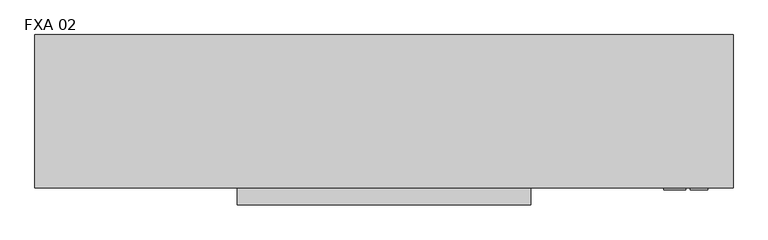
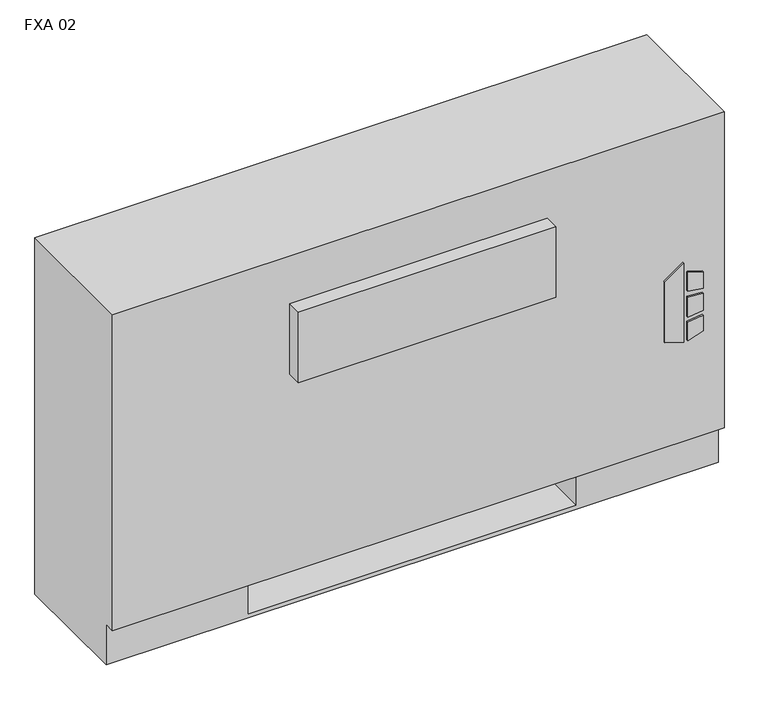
"""IFC4 building model written with IfcOpenShell, lengths in millimetres: proxy geometry, Vertical_Fan_Coil_Unit_-_FXA_-_IEC_-_4-Pipe_FS-FR_LH_2022 : FXA 02."""

from ifc_helpers import new_model, si_unit, point, frame, frame_2d, origin, place, context, project, spatial, polyline, circle_curve, trimmed, segment, composite_curve, outline, extrude, source, transform, mapped, element, save
from ifc_brep_helpers import plane_surface, revolved_surface, advanced_brep


def fxa_02_18b34fc7(model_context):
    return source(origin(), model_context, "Body", "SolidModel", [
        extrude(outline(polyline([(263.9480703, 569.9868862), (254.0, 602.1602728), (396.1709244, 602.1602728), (373.1489183, 569.9868862), (263.9480703, 569.9868862)])), frame((0.0, 12.7, 0.0), z_axis=(0.0, 1.0, 0.0), x_axis=(0.0, 0.0, 1.0)), (0.0, 0.0, 1.0), 3.175),
        extrude(outline(polyline([(342.9473557, 608.9186058), (339.7449632, 635.0), (368.9738042, 635.0), (377.0382193, 608.9186058), (342.9473557, 608.9186058)])), frame((0.0, 12.7, 0.0), z_axis=(0.0, 1.0, 0.0), x_axis=(0.0, 0.0, 1.0)), (0.0, 0.0, 1.0), 3.175),
        extrude(outline(polyline([(291.0838288, 635.0), (287.4183279, 608.9186058), (254.0, 608.9186058), (262.6342372, 635.0), (291.0838288, 635.0)])), frame((0.0, 12.7, 0.0), z_axis=(0.0, 1.0, 0.0), x_axis=(0.0, 0.0, 1.0)), (0.0, 0.0, 1.0), 3.175),
        extrude(outline(polyline([(330.3989903, 635.0), (332.6808166, 608.9186058), (296.7432681, 608.9186058), (299.4845331, 635.0), (330.3989903, 635.0)])), frame((0.0, 12.7, 0.0), z_axis=(0.0, 1.0, 0.0), x_axis=(0.0, 0.0, 1.0)), (0.0, 0.0, 1.0), 3.175),
        extrude(outline(polyline([(552.45, 223.266), (552.45, 81.534), (431.8, 81.534), (431.8, 223.266), (552.45, 223.266)])), frame((0.0, 0.0, 327.025), z_axis=(0.0, 0.0, 1.0), x_axis=(1.0, 0.0, 0.0)), (0.0, 0.0, 1.0), 260.35),
        extrude(outline(composite_curve([segment(trimmed(circle_curve(frame_2d((-190.5, 130.175)), 9.525), [point((-200.025, 130.175))], [point((-180.975, 130.175))], False, "CARTESIAN"), True, "CONTINUOUS"), segment(trimmed(circle_curve(frame_2d((-190.5, 130.175)), 9.525), [point((-180.975, 130.175))], [point((-200.025, 130.175))], False, "CARTESIAN"), True, "CONTINUOUS")], self_intersect=False)), frame((0.0, 0.0, 101.6), z_axis=(0.0, 0.0, 1.0), x_axis=(1.0, 0.0, 0.0)), (0.0, 0.0, 1.0), 25.4),
        extrude(outline(polyline([(-292.1, 63.5), (-292.1, 196.85), (-127.0, 196.85), (-127.0, 63.5), (-292.1, 63.5)])), frame((0.0, 0.0, 127.0), z_axis=(0.0, 0.0, 1.0), x_axis=(1.0, 0.0, 0.0)), (0.0, 0.0, 1.0), 50.8),
        extrude(outline(polyline([(371.475, -9.525), (-66.675, -9.525), (-66.675, 15.875), (371.475, 15.875), (371.475, -9.525)])), frame((0.0, 0.0, 428.625), z_axis=(0.0, 0.0, 1.0), x_axis=(1.0, 0.0, 0.0)), (0.0, 0.0, 1.0), 127.0),
        extrude(outline(composite_curve([segment(trimmed(circle_curve(frame_2d((117.475, 472.44)), 7.9375), [point((117.475, 480.3775))], [point((117.475, 464.5025))], False, "CARTESIAN"), True, "CONTINUOUS"), segment(trimmed(circle_curve(frame_2d((117.475, 472.44)), 7.9375), [point((117.475, 464.5025))], [point((117.475, 480.3775))], False, "CARTESIAN"), True, "CONTINUOUS")], self_intersect=False)), frame((-177.8, 0.0, 0.0), z_axis=(1.0, 0.0, 0.0), x_axis=(0.0, 1.0, 0.0)), (0.0, 0.0, 1.0), 50.8),
        extrude(outline(composite_curve([segment(trimmed(circle_curve(frame_2d((164.0586, 445.897)), 7.9375), [point((164.0586, 453.8345))], [point((164.0586, 437.9595))], False, "CARTESIAN"), True, "CONTINUOUS"), segment(trimmed(circle_curve(frame_2d((164.0586, 445.897)), 7.9375), [point((164.0586, 437.9595))], [point((164.0586, 453.8345))], False, "CARTESIAN"), True, "CONTINUOUS")], self_intersect=False)), frame((-177.8, 0.0, 0.0), z_axis=(1.0, 0.0, 0.0), x_axis=(0.0, 1.0, 0.0)), (0.0, 0.0, 1.0), 50.8),
        extrude(outline(composite_curve([segment(trimmed(circle_curve(frame_2d((130.175, 554.99)), 7.9502), [point((130.175, 562.9402))], [point((130.175, 547.0398))], False, "CARTESIAN"), True, "CONTINUOUS"), segment(trimmed(circle_curve(frame_2d((130.175, 554.99)), 7.9502), [point((130.175, 547.0398))], [point((130.175, 562.9402))], False, "CARTESIAN"), True, "CONTINUOUS")], self_intersect=False)), frame((-177.8, 0.0, 0.0), z_axis=(1.0, 0.0, 0.0), x_axis=(0.0, 1.0, 0.0)), (0.0, 0.0, 1.0), 50.8),
        extrude(outline(composite_curve([segment(trimmed(circle_curve(frame_2d((53.975, 416.56)), 7.9502), [point((53.975, 424.5102))], [point((53.975, 408.6098))], False, "CARTESIAN"), True, "CONTINUOUS"), segment(trimmed(circle_curve(frame_2d((53.975, 416.56)), 7.9502), [point((53.975, 408.6098))], [point((53.975, 424.5102))], False, "CARTESIAN"), True, "CONTINUOUS")], self_intersect=False)), frame((-177.8, 0.0, 0.0), z_axis=(1.0, 0.0, 0.0), x_axis=(0.0, 1.0, 0.0)), (0.0, 0.0, 1.0), 50.8),
        advanced_brep(
        [(673.1, 244.475, 641.35), (-368.3, 244.475, 641.35), (-368.3, 15.875, 641.35), (673.1, 15.875, 641.35), (-368.3, 244.475, 0.0), (673.1, 244.475, 0.0), (673.1, 34.925, 0.0), (-368.3, 34.925, 0.0), (431.8, 244.475, 73.025), (660.4, 244.475, 73.025), (660.4, 244.475, 628.65), (431.8, 244.475, 628.65), (431.8, 244.475, 414.8650565), (460.375, 244.475, 414.8650565), (460.375, 244.475, 385.2349435), (431.8, 244.475, 385.2349435), (431.8, 244.475, 287.3375), (460.375, 244.475, 287.3375), (460.375, 244.475, 258.7625), (431.8, 244.475, 258.7625), (431.8, 244.475, 141.2875), (460.375, 244.475, 141.2875), (460.375, 244.475, 112.7125), (431.8, 244.475, 112.7125), (-127.0, 244.475, 628.65), (-355.6, 244.475, 628.65), (-355.6, 244.475, 73.025), (-127.0, 244.475, 73.025), (-127.0, 244.475, 112.7125), (-155.575, 244.475, 112.7125), (-155.575, 244.475, 141.2875), (-127.0, 244.475, 141.2875), (-127.0, 244.475, 258.7625), (-155.575, 244.475, 258.7625), (-155.575, 244.475, 287.3375), (-127.0, 244.475, 287.3375), (-127.0, 244.475, 385.2349435), (-155.575, 244.475, 385.2349435), (-155.575, 244.475, 414.8650565), (-127.0, 244.475, 414.8650565), (450.0626, 244.475, 127.0), (438.9374, 244.475, 127.0), (450.0626, 244.475, 400.05), (438.9374, 244.475, 400.05), (450.0626, 244.475, 273.05), (438.9374, 244.475, 273.05), (-134.1374, 244.475, 127.0), (-145.2626, 244.475, 127.0), (-134.1374, 244.475, 273.05), (-145.2626, 244.475, 273.05), (-134.1374, 244.475, 400.05), (-145.2626, 244.475, 400.05), (-368.3, 34.925, 73.025), (-368.3, 15.875, 73.025), (673.1, 15.875, 73.025), (673.1, 34.925, 73.025), (-127.0, 34.925, 73.025), (-127.0, 219.075, 73.025), (431.8, 219.075, 73.025), (431.8, 34.925, 73.025), (431.8, 34.925, 6.35), (-127.0, 34.925, 6.35), (431.8, 41.275, 628.65), (660.4, 41.275, 628.65), (660.4, 41.275, 73.025), (431.8, 41.275, 73.025), (-127.0, 41.275, 628.65), (-127.0, 41.275, 73.025), (-355.6, 41.275, 73.025), (-355.6, 41.275, 628.65), (431.8, 219.075, 73.025), (431.8, 238.125, 112.7125), (431.8, 238.125, 141.2875), (431.8, 238.125, 258.7625), (431.8, 238.125, 287.3375), (431.8, 238.125, 385.2349435), (431.8, 238.125, 414.8650565), (-127.0, 219.075, 73.025), (-127.0, 238.125, 414.8650565), (-127.0, 238.125, 385.2349435), (-127.0, 238.125, 287.3375), (-127.0, 238.125, 258.7625), (-127.0, 238.125, 141.2875), (-127.0, 238.125, 112.7125), (-127.0, 219.075, 6.35), (431.8, 219.075, 6.35), (460.375, 238.125, 112.7125), (460.375, 238.125, 141.2875), (438.9374, 238.125, 127.0), (450.0626, 238.125, 127.0), (460.375, 238.125, 258.7625), (460.375, 238.125, 287.3375), (438.9374, 238.125, 273.05), (450.0626, 238.125, 273.05), (460.375, 238.125, 385.2349435), (460.375, 238.125, 414.8650565), (438.9374, 238.125, 400.05), (450.0626, 238.125, 400.05), (-155.575, 238.125, 141.2875), (-155.575, 238.125, 112.7125), (-145.2626, 238.125, 127.0), (-134.1374, 238.125, 127.0), (-155.575, 238.125, 287.3375), (-155.575, 238.125, 258.7625), (-145.2626, 238.125, 273.05), (-134.1374, 238.125, 273.05), (-155.575, 238.125, 414.8650565), (-155.575, 238.125, 385.2349435), (-145.2626, 238.125, 400.05), (-134.1374, 238.125, 400.05)],
        [
            (0, 1),
            (1, 2),
            (2, 3),
            (3, 0),
            (4, 5),
            (5, 6),
            (6, 7),
            (7, 4),
            (0, 5),
            (4, 1),
            (8, 9),
            (9, 10),
            (10, 11),
            (11, 12),
            (12, 13),
            (13, 14),
            (14, 15),
            (15, 16),
            (16, 17),
            (17, 18),
            (18, 19),
            (19, 20),
            (20, 21),
            (21, 22),
            (22, 23),
            (23, 8),
            (24, 25),
            (25, 26),
            (26, 27),
            (27, 28),
            (28, 29),
            (29, 30),
            (30, 31),
            (31, 32),
            (32, 33),
            (33, 34),
            (34, 35),
            (35, 36),
            (36, 37),
            (37, 38),
            (38, 39),
            (39, 24),
            (40, 41, circle_curve(frame((444.5, 244.475, 127.0), z_axis=(0.0, -1.0, 0.0), x_axis=(-1.0, 0.0, 0.0)), 5.5626)),
            (41, 40, circle_curve(frame((444.5, 244.475, 127.0), z_axis=(0.0, -1.0, 0.0), x_axis=(-1.0, 0.0, 0.0)), 5.5626)),
            (42, 43, circle_curve(frame((444.5, 244.475, 400.05), z_axis=(0.0, -1.0, 0.0), x_axis=(-1.0, 0.0, 0.0)), 5.5626)),
            (43, 42, circle_curve(frame((444.5, 244.475, 400.05), z_axis=(0.0, -1.0, 0.0), x_axis=(-1.0, 0.0, 0.0)), 5.5626)),
            (44, 45, circle_curve(frame((444.5, 244.475, 273.05), z_axis=(0.0, -1.0, 0.0), x_axis=(-1.0, 0.0, 0.0)), 5.5626)),
            (45, 44, circle_curve(frame((444.5, 244.475, 273.05), z_axis=(0.0, -1.0, 0.0), x_axis=(-1.0, 0.0, 0.0)), 5.5626)),
            (46, 47, circle_curve(frame((-139.7, 244.475, 127.0), z_axis=(0.0, -1.0, 0.0), x_axis=(-1.0, 0.0, 0.0)), 5.5626)),
            (47, 46, circle_curve(frame((-139.7, 244.475, 127.0), z_axis=(0.0, -1.0, 0.0), x_axis=(-1.0, 0.0, 0.0)), 5.5626)),
            (48, 49, circle_curve(frame((-139.7, 244.475, 273.05), z_axis=(0.0, -1.0, 0.0), x_axis=(-1.0, 0.0, 0.0)), 5.5626)),
            (49, 48, circle_curve(frame((-139.7, 244.475, 273.05), z_axis=(0.0, -1.0, 0.0), x_axis=(-1.0, 0.0, 0.0)), 5.5626)),
            (50, 51, circle_curve(frame((-139.7, 244.475, 400.05), z_axis=(0.0, -1.0, 0.0), x_axis=(-1.0, 0.0, 0.0)), 5.5626)),
            (51, 50, circle_curve(frame((-139.7, 244.475, 400.05), z_axis=(0.0, -1.0, 0.0), x_axis=(-1.0, 0.0, 0.0)), 5.5626)),
            (7, 52),
            (52, 53),
            (53, 2),
            (53, 54),
            (54, 3),
            (54, 55),
            (55, 6),
            (52, 56),
            (56, 57),
            (57, 58),
            (58, 59),
            (59, 55),
            (59, 60),
            (60, 61),
            (61, 56),
            (62, 63),
            (63, 64),
            (64, 65),
            (65, 62),
            (66, 67),
            (67, 68),
            (68, 69),
            (69, 66),
            (65, 70),
            (70, 8),
            (23, 71),
            (71, 72),
            (72, 20),
            (19, 73),
            (73, 74),
            (74, 16),
            (15, 75),
            (75, 76),
            (76, 12),
            (11, 62),
            (64, 9),
            (63, 10),
            (69, 25),
            (24, 66),
            (68, 26),
            (67, 77),
            (77, 27),
            (39, 78),
            (78, 79),
            (79, 36),
            (35, 80),
            (80, 81),
            (81, 32),
            (31, 82),
            (82, 83),
            (83, 28),
            (57, 84),
            (84, 85),
            (85, 58),
            (85, 60),
            (84, 61),
            (71, 86),
            (86, 87),
            (87, 72),
            (88, 89, circle_curve(frame((444.5, 238.125, 127.0), z_axis=(0.0, 1.0, 0.0), x_axis=(-1.0, 0.0, 0.0)), 5.5626)),
            (89, 88, circle_curve(frame((444.5, 238.125, 127.0), z_axis=(0.0, 1.0, 0.0), x_axis=(-1.0, 0.0, 0.0)), 5.5626)),
            (73, 90),
            (90, 91),
            (91, 74),
            (92, 93, circle_curve(frame((444.5, 238.125, 273.05), z_axis=(0.0, 1.0, 0.0), x_axis=(-1.0, 0.0, 0.0)), 5.5626)),
            (93, 92, circle_curve(frame((444.5, 238.125, 273.05), z_axis=(0.0, 1.0, 0.0), x_axis=(-1.0, 0.0, 0.0)), 5.5626)),
            (75, 94),
            (94, 95),
            (95, 76),
            (96, 97, circle_curve(frame((444.5, 238.125, 400.05), z_axis=(0.0, 1.0, 0.0), x_axis=(-1.0, 0.0, 0.0)), 5.5626)),
            (97, 96, circle_curve(frame((444.5, 238.125, 400.05), z_axis=(0.0, 1.0, 0.0), x_axis=(-1.0, 0.0, 0.0)), 5.5626)),
            (98, 99),
            (99, 83),
            (82, 98),
            (100, 101, circle_curve(frame((-139.7, 238.125, 127.0), z_axis=(0.0, 1.0, 0.0), x_axis=(-1.0, 0.0, 0.0)), 5.5626)),
            (101, 100, circle_curve(frame((-139.7, 238.125, 127.0), z_axis=(0.0, 1.0, 0.0), x_axis=(-1.0, 0.0, 0.0)), 5.5626)),
            (102, 103),
            (103, 81),
            (80, 102),
            (104, 105, circle_curve(frame((-139.7, 238.125, 273.05), z_axis=(0.0, 1.0, 0.0), x_axis=(-1.0, 0.0, 0.0)), 5.5626)),
            (105, 104, circle_curve(frame((-139.7, 238.125, 273.05), z_axis=(0.0, 1.0, 0.0), x_axis=(-1.0, 0.0, 0.0)), 5.5626)),
            (106, 107),
            (107, 79),
            (78, 106),
            (108, 109, circle_curve(frame((-139.7, 238.125, 400.05), z_axis=(0.0, 1.0, 0.0), x_axis=(-1.0, 0.0, 0.0)), 5.5626)),
            (109, 108, circle_curve(frame((-139.7, 238.125, 400.05), z_axis=(0.0, 1.0, 0.0), x_axis=(-1.0, 0.0, 0.0)), 5.5626)),
            (87, 21),
            (86, 22),
            (91, 17),
            (90, 18),
            (95, 13),
            (94, 14),
            (30, 98),
            (99, 29),
            (34, 102),
            (103, 33),
            (38, 106),
            (107, 37),
            (88, 41),
            (40, 89),
            (96, 43),
            (42, 97),
            (92, 45),
            (44, 93),
            (100, 47),
            (46, 101),
            (104, 49),
            (48, 105),
            (108, 51),
            (50, 109),
        ],
        [
            plane_surface(frame((-368.3, 244.475, 641.35), z_axis=(0.0, 0.0, 1.0), x_axis=(-1.0, 0.0, 0.0))),
            plane_surface(frame((-368.3, 244.475, 0.0), z_axis=(0.0, 0.0, -1.0), x_axis=(1.0, 0.0, 0.0))),
            plane_surface(frame((673.1, 244.475, 641.35), z_axis=(0.0, 1.0, 0.0), x_axis=(0.0, 0.0, -1.0))),
            plane_surface(frame((-368.3, 244.475, 641.35), z_axis=(-1.0, 0.0, 0.0), x_axis=(0.0, 0.0, -1.0))),
            plane_surface(frame((-368.3, 15.875, 641.35), z_axis=(0.0, -1.0, 0.0), x_axis=(0.0, 0.0, -1.0))),
            plane_surface(frame((673.1, 15.875, 641.35), z_axis=(1.0, 0.0, 0.0), x_axis=(0.0, 0.0, -1.0))),
            plane_surface(frame((-368.3, 15.875, 73.025), z_axis=(0.0, 0.0, -1.0), x_axis=(1.0, 0.0, 0.0))),
            plane_surface(frame((-368.3, 34.925, 73.025), z_axis=(0.0, -1.0, 0.0), x_axis=(1.0, 0.0, 0.0))),
            plane_surface(frame((431.8, 41.275, 628.65), z_axis=(0.0, 1.0, 0.0), x_axis=(0.0, 0.0, -1.0))),
            plane_surface(frame((431.8, 41.275, 628.65), z_axis=(1.0, 0.0, 0.0), x_axis=(0.0, 1.0, 0.0))),
            plane_surface(frame((431.8, 41.275, 73.025), z_axis=(0.0, 0.0, 1.0), x_axis=(0.0, 1.0, 0.0))),
            plane_surface(frame((660.4, 41.275, 73.025), z_axis=(-1.0, 0.0, 0.0), x_axis=(0.0, 1.0, 0.0))),
            plane_surface(frame((660.4, 41.275, 628.65), z_axis=(0.0, 0.0, -1.0), x_axis=(0.0, 1.0, 0.0))),
            plane_surface(frame((-127.0, 41.275, 628.65), z_axis=(0.0, 0.0, -1.0), x_axis=(0.0, 1.0, 0.0))),
            plane_surface(frame((-355.6, 41.275, 628.65), z_axis=(1.0, 0.0, 0.0), x_axis=(0.0, 1.0, 0.0))),
            plane_surface(frame((-355.6, 41.275, 73.025), z_axis=(0.0, 0.0, 1.0), x_axis=(0.0, 1.0, 0.0))),
            plane_surface(frame((-127.0, 41.275, 73.025), z_axis=(-1.0, 0.0, 0.0), x_axis=(0.0, 1.0, 0.0))),
            plane_surface(frame((431.8, 219.075, 73.025), z_axis=(0.0, -1.0, 0.0), x_axis=(0.0, 0.0, -1.0))),
            plane_surface(frame((431.8, 219.075, 73.025), z_axis=(-1.0, 0.0, 0.0), x_axis=(0.0, -1.0, 0.0))),
            plane_surface(frame((431.8, 219.075, 6.35), z_axis=(0.0, 0.0, 1.0), x_axis=(0.0, -1.0, 0.0))),
            plane_surface(frame((-127.0, 219.075, 6.35), z_axis=(1.0, 0.0, 0.0), x_axis=(0.0, -1.0, 0.0))),
            plane_surface(frame((460.375, 238.125, 141.2875), z_axis=(0.0, -1.0, 0.0), x_axis=(-1.0, 0.0, 0.0))),
            plane_surface(frame((431.8, 244.475, 141.2875), z_axis=(0.0, 0.0, 1.0), x_axis=(0.0, -1.0, 0.0))),
            plane_surface(frame((460.375, 244.475, 141.2875), z_axis=(1.0, 0.0, 0.0), x_axis=(0.0, -1.0, 0.0))),
            plane_surface(frame((460.375, 244.475, 112.7125), z_axis=(0.0, 0.0, -1.0), x_axis=(0.0, -1.0, 0.0))),
            plane_surface(frame((431.8, 244.475, 287.3375), z_axis=(0.0, 0.0, 1.0), x_axis=(0.0, -1.0, 0.0))),
            plane_surface(frame((460.375, 244.475, 287.3375), z_axis=(1.0, 0.0, 0.0), x_axis=(0.0, -1.0, 0.0))),
            plane_surface(frame((460.375, 244.475, 258.7625), z_axis=(0.0, 0.0, -1.0), x_axis=(0.0, -1.0, 0.0))),
            plane_surface(frame((431.8, 244.475, 414.8650565), z_axis=(0.0, 0.0, 1.0), x_axis=(0.0, -1.0, 0.0))),
            plane_surface(frame((460.375, 244.475, 414.8650565), z_axis=(1.0, 0.0, 0.0), x_axis=(0.0, -1.0, 0.0))),
            plane_surface(frame((460.375, 244.475, 385.2349435), z_axis=(0.0, 0.0, -1.0), x_axis=(0.0, -1.0, 0.0))),
            plane_surface(frame((-155.575, 244.475, 141.2875), z_axis=(0.0, 0.0, 1.0), x_axis=(0.0, -1.0, 0.0))),
            plane_surface(frame((-127.0, 244.475, 112.7125), z_axis=(0.0, 0.0, -1.0), x_axis=(0.0, -1.0, 0.0))),
            plane_surface(frame((-155.575, 244.475, 112.7125), z_axis=(-1.0, 0.0, 0.0), x_axis=(0.0, -1.0, 0.0))),
            plane_surface(frame((-155.575, 244.475, 287.3375), z_axis=(0.0, 0.0, 1.0), x_axis=(0.0, -1.0, 0.0))),
            plane_surface(frame((-127.0, 244.475, 258.7625), z_axis=(0.0, 0.0, -1.0), x_axis=(0.0, -1.0, 0.0))),
            plane_surface(frame((-155.575, 244.475, 258.7625), z_axis=(-1.0, 0.0, 0.0), x_axis=(0.0, -1.0, 0.0))),
            plane_surface(frame((-155.575, 244.475, 414.8650565), z_axis=(0.0, 0.0, 1.0), x_axis=(0.0, -1.0, 0.0))),
            plane_surface(frame((-127.0, 244.475, 385.2349435), z_axis=(0.0, 0.0, -1.0), x_axis=(0.0, -1.0, 0.0))),
            plane_surface(frame((-155.575, 244.475, 385.2349435), z_axis=(-1.0, 0.0, 0.0), x_axis=(0.0, -1.0, 0.0))),
            revolved_surface(polyline([(438.9374, 238.125, 127.0), (438.9374, 244.475, 127.0)]), (444.5, 244.475, 127.0), (0.0, -1.0, 0.0)),
            revolved_surface(polyline([(438.9374, 238.125, 400.05), (438.9374, 244.475, 400.05)]), (444.5, 244.475, 400.05), (0.0, -1.0, 0.0)),
            revolved_surface(polyline([(438.9374, 238.125, 273.05), (438.9374, 244.475, 273.05)]), (444.5, 244.475, 273.05), (0.0, -1.0, 0.0)),
            revolved_surface(polyline([(-145.2626, 238.125, 127.0), (-145.2626, 244.475, 127.0)]), (-139.7, 244.475, 127.0), (0.0, -1.0, 0.0)),
            revolved_surface(polyline([(-145.2626, 238.125, 273.05), (-145.2626, 244.475, 273.05)]), (-139.7, 244.475, 273.05), (0.0, -1.0, 0.0)),
            revolved_surface(polyline([(-145.2626, 238.125, 400.05), (-145.2626, 244.475, 400.05)]), (-139.7, 244.475, 400.05), (0.0, -1.0, 0.0)),
        ],
        [
            (0, [[1, 2, 3, 4]]),
            (1, [[5, 6, 7, 8]]),
            (2, [[-1, 9, -5, 10], [11, 12, 13, 14, 15, 16, 17, 18, 19, 20, 21, 22, 23, 24, 25, 26], [27, 28, 29, 30, 31, 32, 33, 34, 35, 36, 37, 38, 39, 40, 41, 42], [43, 44], [45, 46], [47, 48], [49, 50], [51, 52], [53, 54]]),
            (3, [[-2, -10, -8, 55, 56, 57]]),
            (4, [[-3, -57, 58, 59]]),
            (5, [[-4, -59, 60, 61, -6, -9]]),
            (6, [[-56, 62, 63, 64, 65, 66, -60, -58]]),
            (7, [[-7, -61, -66, 67, 68, 69, -62, -55]]),
            (8, [[70, 71, 72, 73]]),
            (8, [[74, 75, 76, 77]]),
            (9, [[-73, 78, 79, -26, 80, 81, 82, -22, 83, 84, 85, -18, 86, 87, 88, -14, 89]]),
            (10, [[-72, 90, -11, -79, -78]]),
            (11, [[-71, 91, -12, -90]]),
            (12, [[-70, -89, -13, -91]]),
            (13, [[-77, 92, -27, 93]]),
            (14, [[-76, 94, -28, -92]]),
            (15, [[-75, 95, 96, -29, -94]]),
            (16, [[-74, -93, -42, 97, 98, 99, -38, 100, 101, 102, -34, 103, 104, 105, -30, -96, -95]]),
            (17, [[-64, 106, 107, 108]]),
            (18, [[-108, 109, -67, -65]]),
            (19, [[-107, 110, -68, -109]]),
            (20, [[-106, -63, -69, -110]]),
            (21, [[111, 112, 113, -81], [114, 115]]),
            (21, [[116, 117, 118, -84], [119, 120]]),
            (21, [[121, 122, 123, -87], [124, 125]]),
            (21, [[126, 127, -104, 128], [129, 130]]),
            (21, [[131, 132, -101, 133], [134, 135]]),
            (21, [[136, 137, -98, 138], [139, 140]]),
            (22, [[-113, 141, -23, -82]]),
            (23, [[-112, 142, -24, -141]]),
            (24, [[-111, -80, -25, -142]]),
            (25, [[-118, 143, -19, -85]]),
            (26, [[-117, 144, -20, -143]]),
            (27, [[-116, -83, -21, -144]]),
            (28, [[-123, 145, -15, -88]]),
            (29, [[-122, 146, -16, -145]]),
            (30, [[-121, -86, -17, -146]]),
            (31, [[-128, -103, -33, 147]]),
            (32, [[-127, 148, -31, -105]]),
            (33, [[-126, -147, -32, -148]]),
            (34, [[-133, -100, -37, 149]]),
            (35, [[-132, 150, -35, -102]]),
            (36, [[-131, -149, -36, -150]]),
            (37, [[-138, -97, -41, 151]]),
            (38, [[-137, 152, -39, -99]]),
            (39, [[-136, -151, -40, -152]]),
            (40, [[153, -43, 154, -114]]),
            (40, [[-153, -115, -154, -44]]),
            (41, [[155, -45, 156, -124]]),
            (41, [[-155, -125, -156, -46]]),
            (42, [[157, -47, 158, -119]]),
            (42, [[-157, -120, -158, -48]]),
            (43, [[159, -49, 160, -129]]),
            (43, [[-159, -130, -160, -50]]),
            (44, [[161, -51, 162, -134]]),
            (44, [[-161, -135, -162, -52]]),
            (45, [[163, -53, 164, -139]]),
            (45, [[-163, -140, -164, -54]]),
        ],
    ),
    ])


if __name__ == "__main__":
    model = new_model("IFC4")
    model_context = context("Model", 3, world=origin())
    ifc_project = project(units=[si_unit("LENGTHUNIT", "METRE", prefix="MILLI")], contexts=[model_context])
    site = spatial("IfcSite", under=ifc_project)
    building = spatial("IfcBuilding", under=site)
    placement = place(None, origin())
    fxa_02_shape = fxa_02_18b34fc7(model_context)
    element("IfcBuildingElementProxy", 1, Name="Vertical_Fan_Coil_Unit_-_FXA_-_IEC_-_4-Pipe_FS-FR_LH_2022 : FXA 02", ObjectType="Vertical_Fan_Coil_Unit_-_FXA_-_IEC_-_4-Pipe_FS-FR_LH_2022 : FXA 02", at=placement, inside=building, context=model_context, shape_type="MappedRepresentation", body=[
        mapped(fxa_02_shape, transform((0.0, 0.0, 0.0), x_axis=(1.0, 0.0, 0.0), y_axis=(0.0, 1.0, 0.0), z_axis=(0.0, 0.0, 1.0))),
    ])
    save(model, "model.ifc")
